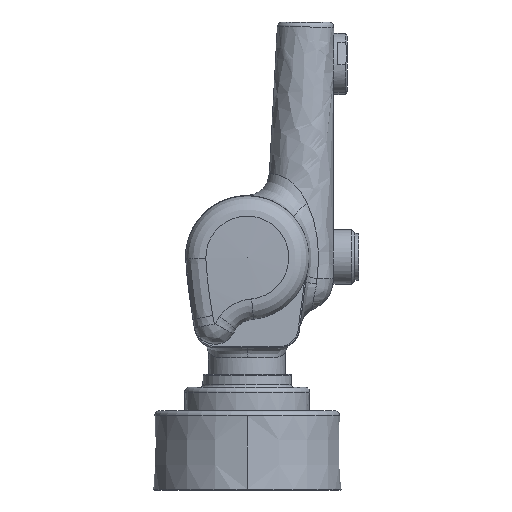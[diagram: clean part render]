
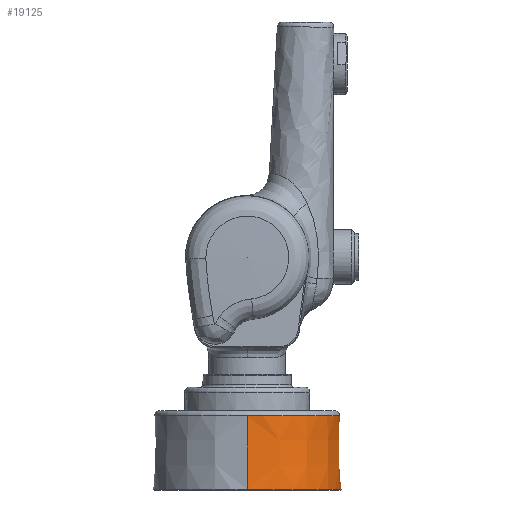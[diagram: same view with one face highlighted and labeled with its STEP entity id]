
A CAD part, left-side view. The second image highlights one B-rep face of the part: STEP entity #19125.
In plain terms, the highlighted conical face has half-angle 1 degrees and reference radius 36.2 mm.
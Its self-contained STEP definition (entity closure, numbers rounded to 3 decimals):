
#336 = CARTESIAN_POINT ( 'NONE',  ( 264.129, 474.419, 718.714 ) ) ;
#467 = AXIS2_PLACEMENT_3D ( 'NONE', #22444, #12756, #16581 ) ;
#1117 = VERTEX_POINT ( 'NONE', #22138 ) ;
#1327 = CIRCLE ( 'NONE', #14792, 36.736 ) ;
#1572 = CARTESIAN_POINT ( 'NONE',  ( 336.563, 474.419, 720.68 ) ) ;
#1605 = CARTESIAN_POINT ( 'NONE',  ( 300.363, 474.419, 720.68 ) ) ;
#1910 = CARTESIAN_POINT ( 'NONE',  ( 300.363, 474.419, 718.714 ) ) ;
#2116 = DIRECTION ( 'NONE',  ( 0., -1., 0. ) ) ;
#2406 = VERTEX_POINT ( 'NONE', #11710 ) ;
#2467 = CIRCLE ( 'NONE', #467, 36.736 ) ;
#2518 = LINE ( 'NONE', #12308, #17095 ) ;
#2866 = ORIENTED_EDGE ( 'NONE', *, *, #3238, .T. ) ;
#2957 = VERTEX_POINT ( 'NONE', #19599 ) ;
#3230 = LINE ( 'NONE', #1572, #24015 ) ;
#3238 = EDGE_CURVE ( 'NONE', #21279, #2406, #2518, .T. ) ;
#4562 = CIRCLE ( 'NONE', #8855, 36.234 ) ;
#4663 = VERTEX_POINT ( 'NONE', #16300 ) ;
#5262 = ORIENTED_EDGE ( 'NONE', *, *, #21382, .T. ) ;
#5409 = DIRECTION ( 'NONE',  ( 0., 0., -1. ) ) ;
#5758 = EDGE_CURVE ( 'NONE', #4663, #21313, #4562, .T. ) ;
#6872 = ORIENTED_EDGE ( 'NONE', *, *, #8610, .T. ) ;
#8610 = EDGE_CURVE ( 'NONE', #21313, #21279, #14881, .T. ) ;
#8855 = AXIS2_PLACEMENT_3D ( 'NONE', #17085, #11570, #2116 ) ;
#10783 = AXIS2_PLACEMENT_3D ( 'NONE', #1910, #17135, #15309 ) ;
#11264 = EDGE_CURVE ( 'NONE', #4663, #2957, #3230, .T. ) ;
#11570 = DIRECTION ( 'NONE',  ( 0., 0., -1. ) ) ;
#11710 = CARTESIAN_POINT ( 'NONE',  ( 263.627, 474.419, 689.985 ) ) ;
#11869 = CARTESIAN_POINT ( 'NONE',  ( 300.363, 474.419, 689.985 ) ) ;
#12192 = ORIENTED_EDGE ( 'NONE', *, *, #5758, .T. ) ;
#12308 = CARTESIAN_POINT ( 'NONE',  ( 264.163, 474.419, 720.68 ) ) ;
#12756 = DIRECTION ( 'NONE',  ( 0., 0., 1. ) ) ;
#14252 = DIRECTION ( 'NONE',  ( -0.017, 0., -1. ) ) ;
#14792 = AXIS2_PLACEMENT_3D ( 'NONE', #11869, #17721, #19608 ) ;
#14821 = EDGE_LOOP ( 'NONE', ( #12192, #6872, #2866, #5262, #16310, #18888 ) ) ;
#14881 = CIRCLE ( 'NONE', #10783, 36.234 ) ;
#15309 = DIRECTION ( 'NONE',  ( 0., -1., 0. ) ) ;
#16300 = CARTESIAN_POINT ( 'NONE',  ( 336.598, 474.419, 718.714 ) ) ;
#16310 = ORIENTED_EDGE ( 'NONE', *, *, #23546, .T. ) ;
#16581 = DIRECTION ( 'NONE',  ( 0., 1., 0. ) ) ;
#17085 = CARTESIAN_POINT ( 'NONE',  ( 300.363, 474.419, 718.714 ) ) ;
#17095 = VECTOR ( 'NONE', #14252, 1000. ) ;
#17135 = DIRECTION ( 'NONE',  ( 0., 0., -1. ) ) ;
#17463 = CARTESIAN_POINT ( 'NONE',  ( 300.363, 438.184, 718.714 ) ) ;
#17721 = DIRECTION ( 'NONE',  ( 0., 0., 1. ) ) ;
#18682 = AXIS2_PLACEMENT_3D ( 'NONE', #1605, #5409, #24260 ) ;
#18888 = ORIENTED_EDGE ( 'NONE', *, *, #11264, .F. ) ;
#19125 = ADVANCED_FACE ( 'NONE', ( #23005 ), #22695, .T. ) ;
#19599 = CARTESIAN_POINT ( 'NONE',  ( 337.099, 474.419, 689.985 ) ) ;
#19608 = DIRECTION ( 'NONE',  ( 0., 1., 0. ) ) ;
#20914 = DIRECTION ( 'NONE',  ( 0.017, 0., -1. ) ) ;
#21279 = VERTEX_POINT ( 'NONE', #336 ) ;
#21313 = VERTEX_POINT ( 'NONE', #17463 ) ;
#21382 = EDGE_CURVE ( 'NONE', #2406, #1117, #1327, .T. ) ;
#22138 = CARTESIAN_POINT ( 'NONE',  ( 300.363, 437.683, 689.985 ) ) ;
#22444 = CARTESIAN_POINT ( 'NONE',  ( 300.363, 474.419, 689.985 ) ) ;
#22695 = CONICAL_SURFACE ( 'NONE', #18682, 36.2, 0.017 ) ;
#23005 = FACE_OUTER_BOUND ( 'NONE', #14821, .T. ) ;
#23546 = EDGE_CURVE ( 'NONE', #1117, #2957, #2467, .T. ) ;
#24015 = VECTOR ( 'NONE', #20914, 1000. ) ;
#24260 = DIRECTION ( 'NONE',  ( 1., 0., 0. ) ) ;
